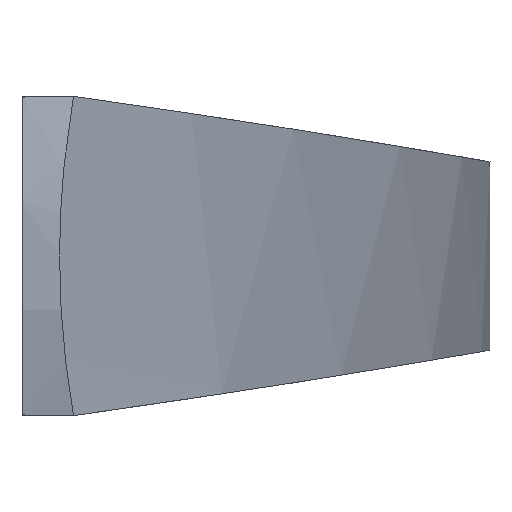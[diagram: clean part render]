
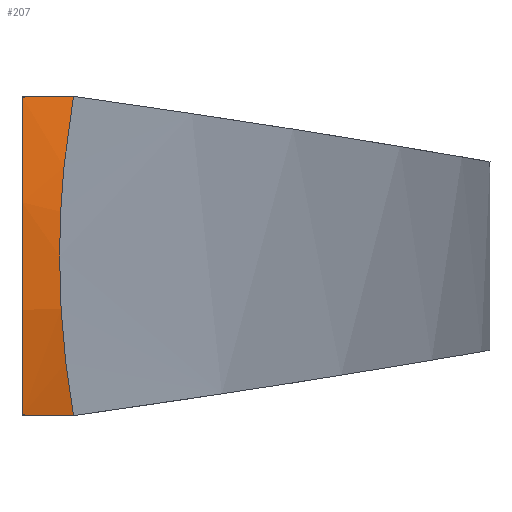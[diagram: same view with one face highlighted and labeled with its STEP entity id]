
A CAD part, left-side view. The second image highlights one B-rep face of the part: STEP entity #207.
In plain terms, the highlighted cylindrical face has radius 36.625 mm (diameter 73.25 mm), a partial arc.
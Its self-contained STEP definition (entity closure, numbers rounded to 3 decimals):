
#167 = EDGE_CURVE( '', #171, #229, #420, .T. );
#171 = VERTEX_POINT( '', #424 );
#173 = VERTEX_POINT( '', #426 );
#193 = EDGE_CURVE( '', #363, #173, #447, .T. );
#207 = ADVANCED_FACE( '', ( #464 ), #465, .T. );
#213 = VERTEX_POINT( '', #471 );
#225 = EDGE_CURVE( '', #213, #363, #484, .T. );
#229 = VERTEX_POINT( '', #489 );
#291 = EDGE_CURVE( '', #171, #173, #556, .T. );
#307 = EDGE_CURVE( '', #229, #213, #577, .T. );
#363 = VERTEX_POINT( '', #636 );
#420 = CIRCLE( '', #693, 36.625 );
#424 = CARTESIAN_POINT( '', ( -4., 0., -8.5 ) );
#426 = CARTESIAN_POINT( '', ( -4., -2.742, -8.5 ) );
#447 = B_SPLINE_CURVE_WITH_KNOTS( '', 3, ( #735, #736, #737, #738, #739, #740, #741, #742 ), .UNSPECIFIED., .F., .F., ( 4, 2, 2, 4 ), ( 0., 3.505, 7.01, 8.426 ), .UNSPECIFIED. );
#464 = FACE_OUTER_BOUND( '', #761, .T. );
#465 = CYLINDRICAL_SURFACE( '', #762, 36.625 );
#471 = CARTESIAN_POINT( '', ( -4., -2.742, 8.5 ) );
#484 = B_SPLINE_CURVE_WITH_KNOTS( '', 3, ( #788, #789, #790, #791, #792, #793, #794, #795 ), .UNSPECIFIED., .F., .F., ( 4, 2, 2, 4 ), ( -8.44, -7.197, -3.598, 0. ), .UNSPECIFIED. );
#489 = CARTESIAN_POINT( '', ( -4., 0., 8.5 ) );
#556 = LINE( '', #955, #956 );
#577 = LINE( '', #980, #981 );
#636 = CARTESIAN_POINT( '', ( -5., -2., 0. ) );
#693 = AXIS2_PLACEMENT_3D( '', #1182, #1183, #1184 );
#735 = CARTESIAN_POINT( '', ( -5., -2., 0. ) );
#736 = CARTESIAN_POINT( '', ( -5., -2., -1.168 ) );
#737 = CARTESIAN_POINT( '', ( -4.944, -2.042, -2.35 ) );
#738 = CARTESIAN_POINT( '', ( -4.714, -2.214, -4.717 ) );
#739 = CARTESIAN_POINT( '', ( -4.541, -2.343, -5.903 ) );
#740 = CARTESIAN_POINT( '', ( -4.216, -2.583, -7.555 ) );
#741 = CARTESIAN_POINT( '', ( -4.113, -2.659, -8.028 ) );
#742 = CARTESIAN_POINT( '', ( -4., -2.742, -8.5 ) );
#761 = EDGE_LOOP( '', ( #1237, #1238, #1239, #1240, #1241 ) );
#762 = AXIS2_PLACEMENT_3D( '', #1242, #1243, #1244 );
#788 = CARTESIAN_POINT( '', ( -4., -2.742, 8.5 ) );
#789 = CARTESIAN_POINT( '', ( -4.099, -2.669, 8.087 ) );
#790 = CARTESIAN_POINT( '', ( -4.19, -2.602, 7.672 ) );
#791 = CARTESIAN_POINT( '', ( -4.517, -2.361, 6.053 ) );
#792 = CARTESIAN_POINT( '', ( -4.699, -2.225, 4.838 ) );
#793 = CARTESIAN_POINT( '', ( -4.941, -2.044, 2.412 ) );
#794 = CARTESIAN_POINT( '', ( -5., -2., 1.199 ) );
#795 = CARTESIAN_POINT( '', ( -5., -2., 0. ) );
#955 = CARTESIAN_POINT( '', ( -4., 40., -8.5 ) );
#956 = VECTOR( '', #1334, 1. );
#980 = CARTESIAN_POINT( '', ( -4., 40., 8.5 ) );
#981 = VECTOR( '', #1376, 1. );
#1182 = CARTESIAN_POINT( '', ( 31.625, 0., 0. ) );
#1183 = DIRECTION( '', ( 0., 1., 0. ) );
#1184 = DIRECTION( '', ( -0.973, 0., -0.232 ) );
#1237 = ORIENTED_EDGE( '', *, *, #225, .F. );
#1238 = ORIENTED_EDGE( '', *, *, #307, .F. );
#1239 = ORIENTED_EDGE( '', *, *, #167, .F. );
#1240 = ORIENTED_EDGE( '', *, *, #291, .T. );
#1241 = ORIENTED_EDGE( '', *, *, #193, .F. );
#1242 = CARTESIAN_POINT( '', ( 31.625, 40., 0. ) );
#1243 = DIRECTION( '', ( 0., 1., 0. ) );
#1244 = DIRECTION( '', ( -0.973, 0., -0.232 ) );
#1334 = DIRECTION( '', ( 0., -1., 0. ) );
#1376 = DIRECTION( '', ( 0., -1., 0. ) );
